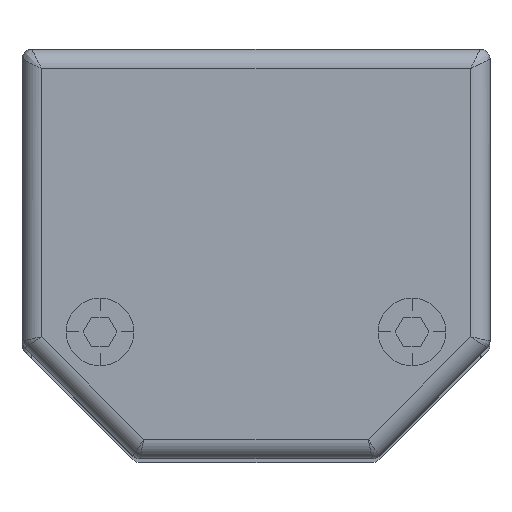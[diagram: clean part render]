
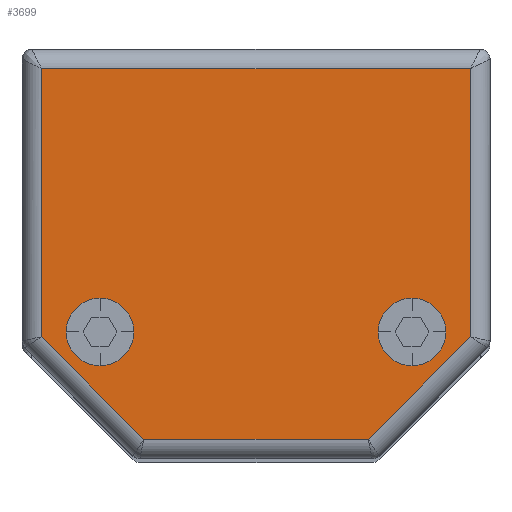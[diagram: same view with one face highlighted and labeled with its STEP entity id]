
A CAD part, top view. The second image highlights one B-rep face of the part: STEP entity #3699.
In plain terms, the highlighted planar face has unit normal (0, 0, 1).
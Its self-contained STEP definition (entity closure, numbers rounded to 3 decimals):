
#5 = VERTEX_POINT ( 'NONE', #11952 ) ;
#112 = AXIS2_PLACEMENT_3D ( 'NONE', #15339, #15500, #10239 ) ;
#159 = VECTOR ( 'NONE', #12183, 1000. ) ;
#642 = VECTOR ( 'NONE', #4167, 1000. ) ;
#1259 = EDGE_LOOP ( 'NONE', ( #4444, #15378, #14108, #15458, #5157, #1624 ) ) ;
#1262 = VERTEX_POINT ( 'NONE', #9414 ) ;
#1334 = CARTESIAN_POINT ( 'NONE',  ( 22., -27.5, 8. ) ) ;
#1557 = CIRCLE ( 'NONE', #5777, 3.47 ) ;
#1624 = ORIENTED_EDGE ( 'NONE', *, *, #10161, .T. ) ;
#1957 = AXIS2_PLACEMENT_3D ( 'NONE', #13564, #7371, #8418 ) ;
#2556 = LINE ( 'NONE', #11854, #10045 ) ;
#2581 = EDGE_CURVE ( 'NONE', #5, #15668, #15477, .T. ) ;
#3192 = DIRECTION ( 'NONE',  ( 1., 0., 0. ) ) ;
#3262 = DIRECTION ( 'NONE',  ( 0., 0., 1. ) ) ;
#3325 = VECTOR ( 'NONE', #6862, 1000. ) ;
#3355 = DIRECTION ( 'NONE',  ( 0.707, 0.707, 0. ) ) ;
#3586 = ORIENTED_EDGE ( 'NONE', *, *, #6436, .F. ) ;
#3676 = EDGE_CURVE ( 'NONE', #6922, #10163, #14407, .T. ) ;
#3699 = ADVANCED_FACE ( 'NONE', ( #11678, #9800, #12085 ), #12243, .T. ) ;
#3754 = CIRCLE ( 'NONE', #112, 3.47 ) ;
#3999 = VERTEX_POINT ( 'NONE', #13138 ) ;
#4150 = ORIENTED_EDGE ( 'NONE', *, *, #2581, .F. ) ;
#4167 = DIRECTION ( 'NONE',  ( -1., 0., 0. ) ) ;
#4311 = CARTESIAN_POINT ( 'NONE',  ( 22., 0., 8. ) ) ;
#4410 = EDGE_CURVE ( 'NONE', #3999, #12772, #5542, .T. ) ;
#4428 = DIRECTION ( 'NONE',  ( 1., 0., 0. ) ) ;
#4444 = ORIENTED_EDGE ( 'NONE', *, *, #13671, .T. ) ;
#4617 = EDGE_CURVE ( 'NONE', #10163, #3999, #5874, .T. ) ;
#4788 = EDGE_CURVE ( 'NONE', #15370, #1262, #11196, .T. ) ;
#4946 = CARTESIAN_POINT ( 'NONE',  ( -16., -27., 8. ) ) ;
#5157 = ORIENTED_EDGE ( 'NONE', *, *, #4410, .T. ) ;
#5456 = CARTESIAN_POINT ( 'NONE',  ( -24.75, -24.75, 8. ) ) ;
#5495 = CARTESIAN_POINT ( 'NONE',  ( -11.5, -38., 8. ) ) ;
#5542 = LINE ( 'NONE', #5456, #3325 ) ;
#5589 = CARTESIAN_POINT ( 'NONE',  ( -22., 0., 8. ) ) ;
#5777 = AXIS2_PLACEMENT_3D ( 'NONE', #8273, #8424, #15886 ) ;
#5874 = LINE ( 'NONE', #8385, #8314 ) ;
#6436 = EDGE_CURVE ( 'NONE', #15668, #5, #1557, .T. ) ;
#6862 = DIRECTION ( 'NONE',  ( 0.707, -0.707, 0. ) ) ;
#6922 = VERTEX_POINT ( 'NONE', #4311 ) ;
#7371 = DIRECTION ( 'NONE',  ( 0., 0., 1. ) ) ;
#7463 = VERTEX_POINT ( 'NONE', #1334 ) ;
#8085 = EDGE_LOOP ( 'NONE', ( #4150, #3586 ) ) ;
#8188 = CARTESIAN_POINT ( 'NONE',  ( 0., 0., 8. ) ) ;
#8273 = CARTESIAN_POINT ( 'NONE',  ( 16., -27., 8. ) ) ;
#8314 = VECTOR ( 'NONE', #12293, 1000. ) ;
#8385 = CARTESIAN_POINT ( 'NONE',  ( -22., 0., 8. ) ) ;
#8418 = DIRECTION ( 'NONE',  ( 1., 0., 0. ) ) ;
#8424 = DIRECTION ( 'NONE',  ( 0., 0., 1. ) ) ;
#8851 = ORIENTED_EDGE ( 'NONE', *, *, #4788, .F. ) ;
#9100 = EDGE_LOOP ( 'NONE', ( #10807, #8851 ) ) ;
#9414 = CARTESIAN_POINT ( 'NONE',  ( -12.53, -27., 8. ) ) ;
#9458 = AXIS2_PLACEMENT_3D ( 'NONE', #14422, #3262, #3192 ) ;
#9800 = FACE_BOUND ( 'NONE', #9100, .T. ) ;
#10045 = VECTOR ( 'NONE', #4428, 1000. ) ;
#10161 = EDGE_CURVE ( 'NONE', #12772, #13363, #2556, .T. ) ;
#10163 = VERTEX_POINT ( 'NONE', #5589 ) ;
#10239 = DIRECTION ( 'NONE',  ( 1., 0., 0. ) ) ;
#10807 = ORIENTED_EDGE ( 'NONE', *, *, #11189, .F. ) ;
#10888 = CARTESIAN_POINT ( 'NONE',  ( 22., 0., 8. ) ) ;
#11141 = DIRECTION ( 'NONE',  ( 0., 0., 1. ) ) ;
#11159 = CARTESIAN_POINT ( 'NONE',  ( 11.5, -38., 8. ) ) ;
#11189 = EDGE_CURVE ( 'NONE', #1262, #15370, #3754, .T. ) ;
#11196 = CIRCLE ( 'NONE', #15411, 3.47 ) ;
#11678 = FACE_OUTER_BOUND ( 'NONE', #1259, .T. ) ;
#11854 = CARTESIAN_POINT ( 'NONE',  ( 0., -38., 8. ) ) ;
#11952 = CARTESIAN_POINT ( 'NONE',  ( 19.47, -27., 8. ) ) ;
#12033 = CARTESIAN_POINT ( 'NONE',  ( 24.75, -24.75, 8. ) ) ;
#12085 = FACE_BOUND ( 'NONE', #8085, .T. ) ;
#12183 = DIRECTION ( 'NONE',  ( 0., 1., 0. ) ) ;
#12243 = PLANE ( 'NONE',  #1957 ) ;
#12293 = DIRECTION ( 'NONE',  ( 0., -1., 0. ) ) ;
#12449 = DIRECTION ( 'NONE',  ( 1., 0., 0. ) ) ;
#12558 = EDGE_CURVE ( 'NONE', #7463, #6922, #15819, .T. ) ;
#12772 = VERTEX_POINT ( 'NONE', #5495 ) ;
#13138 = CARTESIAN_POINT ( 'NONE',  ( -22., -27.5, 8. ) ) ;
#13363 = VERTEX_POINT ( 'NONE', #11159 ) ;
#13564 = CARTESIAN_POINT ( 'NONE',  ( 0., 0., 8. ) ) ;
#13671 = EDGE_CURVE ( 'NONE', #13363, #7463, #14594, .T. ) ;
#14108 = ORIENTED_EDGE ( 'NONE', *, *, #3676, .T. ) ;
#14407 = LINE ( 'NONE', #8188, #642 ) ;
#14422 = CARTESIAN_POINT ( 'NONE',  ( 16., -27., 8. ) ) ;
#14594 = LINE ( 'NONE', #12033, #15436 ) ;
#15143 = CARTESIAN_POINT ( 'NONE',  ( -19.47, -27., 8. ) ) ;
#15339 = CARTESIAN_POINT ( 'NONE',  ( -16., -27., 8. ) ) ;
#15370 = VERTEX_POINT ( 'NONE', #15143 ) ;
#15378 = ORIENTED_EDGE ( 'NONE', *, *, #12558, .T. ) ;
#15411 = AXIS2_PLACEMENT_3D ( 'NONE', #4946, #11141, #12449 ) ;
#15436 = VECTOR ( 'NONE', #3355, 1000. ) ;
#15458 = ORIENTED_EDGE ( 'NONE', *, *, #4617, .T. ) ;
#15477 = CIRCLE ( 'NONE', #9458, 3.47 ) ;
#15500 = DIRECTION ( 'NONE',  ( 0., 0., 1. ) ) ;
#15668 = VERTEX_POINT ( 'NONE', #16165 ) ;
#15819 = LINE ( 'NONE', #10888, #159 ) ;
#15886 = DIRECTION ( 'NONE',  ( 1., 0., 0. ) ) ;
#16165 = CARTESIAN_POINT ( 'NONE',  ( 12.53, -27., 8. ) ) ;
